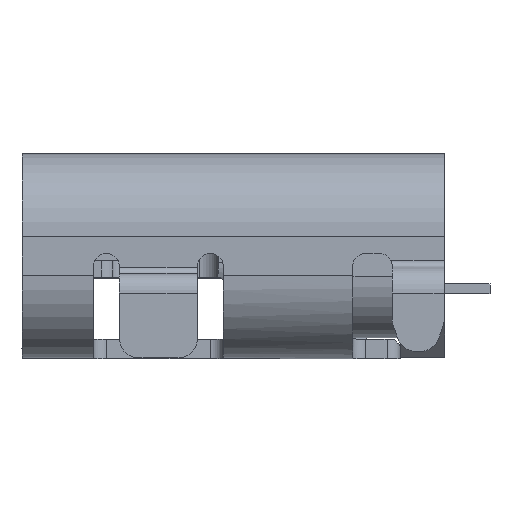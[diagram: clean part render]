
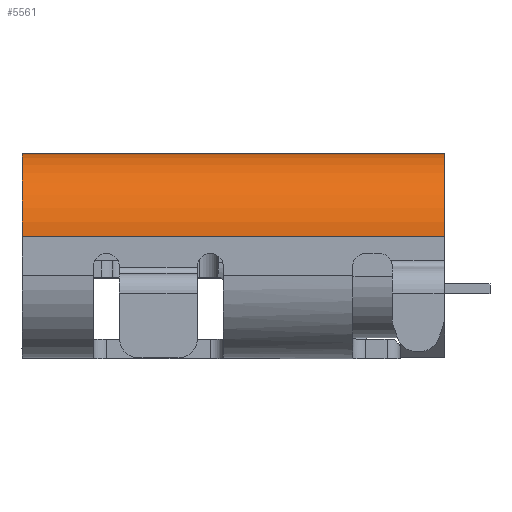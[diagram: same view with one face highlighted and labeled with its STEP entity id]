
A CAD part, front view. The second image highlights one B-rep face of the part: STEP entity #5561.
In plain terms, the highlighted cylindrical face has radius 1.28 mm (diameter 2.56 mm), a partial arc.
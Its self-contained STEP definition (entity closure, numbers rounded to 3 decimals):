
#48 = EDGE_CURVE ( 'NONE', #20605, #9106, #9141, .T. ) ;
#750 = CARTESIAN_POINT ( 'NONE',  ( 96.054, 130.53, 0.225 ) ) ;
#827 = DIRECTION ( 'NONE',  ( 1., 0., 0. ) ) ;
#1546 = DIRECTION ( 'NONE',  ( 0., 1., 0. ) ) ;
#2593 = DIRECTION ( 'NONE',  ( 0., 0., 1. ) ) ;
#3302 = ORIENTED_EDGE ( 'NONE', *, *, #22391, .F. ) ;
#3849 = ORIENTED_EDGE ( 'NONE', *, *, #18933, .T. ) ;
#4185 = ORIENTED_EDGE ( 'NONE', *, *, #48, .F. ) ;
#4249 = AXIS2_PLACEMENT_3D ( 'NONE', #6898, #10023, #1546 ) ;
#5132 = LINE ( 'NONE', #16083, #8787 ) ;
#5349 = CIRCLE ( 'NONE', #9063, 1.28 ) ;
#5478 = VERTEX_POINT ( 'NONE', #11091 ) ;
#5561 = ADVANCED_FACE ( 'NONE', ( #13179 ), #9909, .T. ) ;
#6851 = VECTOR ( 'NONE', #8015, 1000. ) ;
#6898 = CARTESIAN_POINT ( 'NONE',  ( 96.054, 131.81, 0.225 ) ) ;
#8015 = DIRECTION ( 'NONE',  ( 1., 0., 0. ) ) ;
#8404 = AXIS2_PLACEMENT_3D ( 'NONE', #12164, #12050, #17646 ) ;
#8787 = VECTOR ( 'NONE', #21058, 1000. ) ;
#9063 = AXIS2_PLACEMENT_3D ( 'NONE', #18548, #827, #2593 ) ;
#9106 = VERTEX_POINT ( 'NONE', #10192 ) ;
#9141 = CIRCLE ( 'NONE', #8404, 1.28 ) ;
#9432 = VERTEX_POINT ( 'NONE', #10505 ) ;
#9773 = LINE ( 'NONE', #16897, #6851 ) ;
#9909 = CYLINDRICAL_SURFACE ( 'NONE', #4249, 1.28 ) ;
#10023 = DIRECTION ( 'NONE',  ( 1., 0., 0. ) ) ;
#10192 = CARTESIAN_POINT ( 'NONE',  ( 96.054, 131.81, 1.505 ) ) ;
#10505 = CARTESIAN_POINT ( 'NONE',  ( 102.554, 130.53, 0.225 ) ) ;
#11091 = CARTESIAN_POINT ( 'NONE',  ( 102.554, 131.81, 1.505 ) ) ;
#12050 = DIRECTION ( 'NONE',  ( -1., 0., 0. ) ) ;
#12164 = CARTESIAN_POINT ( 'NONE',  ( 96.054, 131.81, 0.225 ) ) ;
#13179 = FACE_OUTER_BOUND ( 'NONE', #22287, .T. ) ;
#15754 = EDGE_CURVE ( 'NONE', #20605, #9432, #9773, .T. ) ;
#15937 = ORIENTED_EDGE ( 'NONE', *, *, #15754, .T. ) ;
#16083 = CARTESIAN_POINT ( 'NONE',  ( 102.554, 131.81, 1.505 ) ) ;
#16897 = CARTESIAN_POINT ( 'NONE',  ( 96.054, 130.53, 0.225 ) ) ;
#17646 = DIRECTION ( 'NONE',  ( 0., -1., 0. ) ) ;
#18548 = CARTESIAN_POINT ( 'NONE',  ( 102.554, 131.81, 0.225 ) ) ;
#18933 = EDGE_CURVE ( 'NONE', #5478, #9106, #5132, .T. ) ;
#20605 = VERTEX_POINT ( 'NONE', #750 ) ;
#21058 = DIRECTION ( 'NONE',  ( -1., 0., 0. ) ) ;
#22287 = EDGE_LOOP ( 'NONE', ( #15937, #3302, #3849, #4185 ) ) ;
#22391 = EDGE_CURVE ( 'NONE', #5478, #9432, #5349, .T. ) ;
